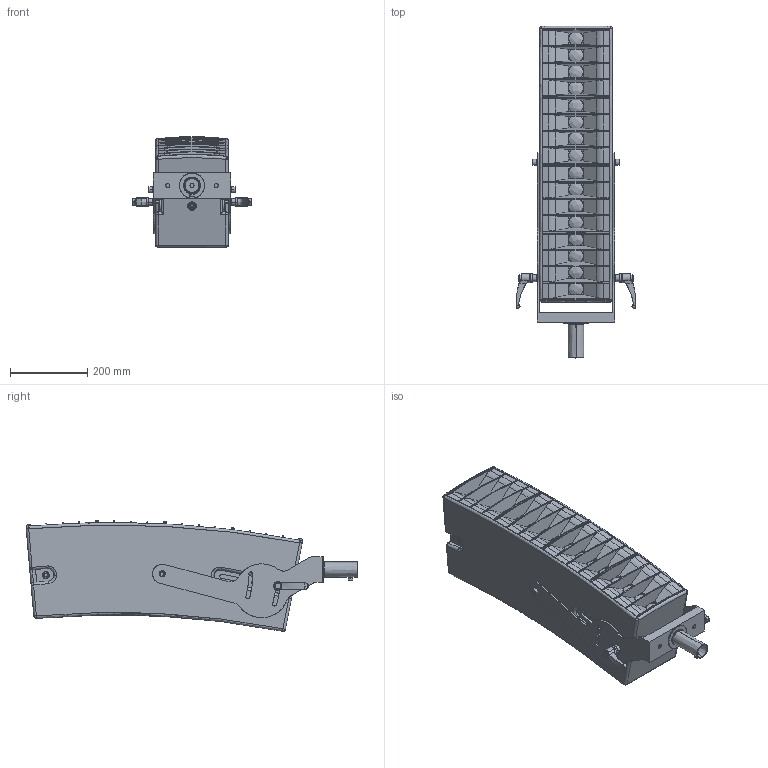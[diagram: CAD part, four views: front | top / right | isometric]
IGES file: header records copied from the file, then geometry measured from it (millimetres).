
Start section: SolidWorks IGES file using analytic representation for surfaces
Global section: file name: C:\Dokumente und Einstellungen\PC_Fabian\Desktop\G-Serie\Seeburg_GL16c_Bracket-ver.IGS; native system: SolidWorks 2009; preprocessor: SolidWorks 2009; author: PC_Fabian; date: 121015.155244; units: millimetre
Bounding box: 310.25 x 861.25 x 286.99 mm (x, y, z)
Surface area: 1992642.3 mm2 (no closed solid volume)
Topology: 0 solids, 0 shells, 1319 faces, 19114 edges, 19102 vertices
Faces by surface type: bspline 668, revolution 651
